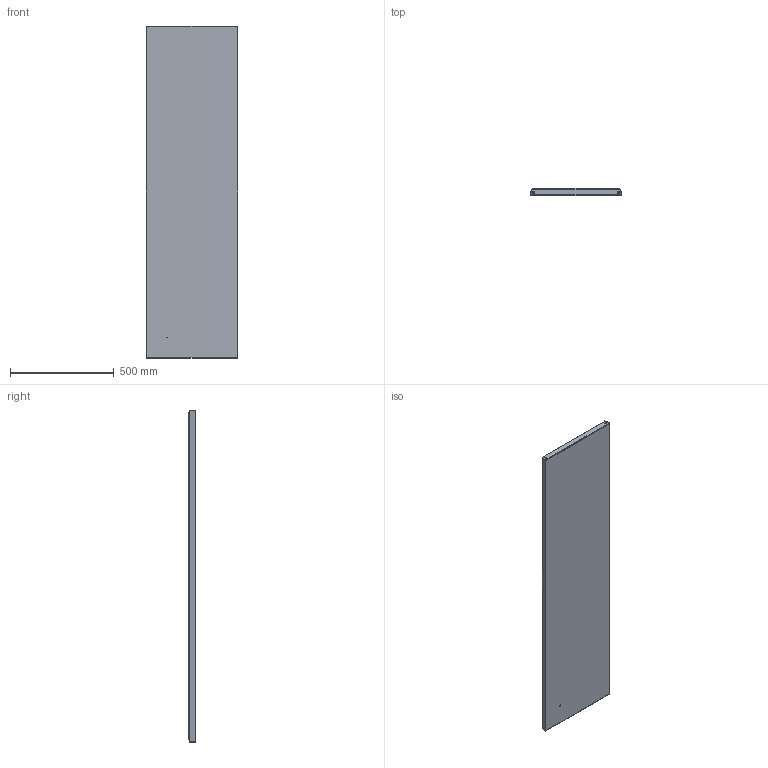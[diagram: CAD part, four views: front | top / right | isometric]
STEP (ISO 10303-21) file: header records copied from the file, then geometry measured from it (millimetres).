
FILE_DESCRIPTION((''),'2;1');
FILE_NAME('7-09017-05-3_ASM','2014-05-22T',('r-maciej'),('BAS'),'PRO/ENGINEER BY PARAMETRIC TECHNOLOGY CORPORATION, 2014000','PRO/ENGINEER BY PARAMETRIC TECHNOLOGY CORPORATION, 2014000','');
FILE_SCHEMA(('CONFIG_CONTROL_DESIGN'));
Length unit declared in the file: millimetre
Products named in the file (6): 7-09017-05-3; TRZPIEN_M8X15; 7-09017-05-3__ASM; USZCZELKA_BDP_16; NITONAKRETKA-M6-PRZELOT; 7-09017-05-3_ASM
Assembly tree (8 placements, depth 3):
  7-09017-05-3_ASM
    7-09017-05-3__ASM
      7-09017-05-3
      TRZPIEN_M8X15
    USZCZELKA_BDP_16
    NITONAKRETKA-M6-PRZELOT  x4
Bounding box: 440.8 x 35 x 1600 mm (x, y, z)
Volume: 1962337.4 mm3; surface area: 1909082.3 mm2
Topology: 7 solids, 7 shells, 210 faces, 470 edges, 286 vertices
Faces by surface type: plane 102, cylinder 74, cone 18, torus 12, bspline 4
Entity records: 4653 total; most frequent: CARTESIAN_POINT 903, DIRECTION 798, ORIENTED_EDGE 712, EDGE_CURVE 356, AXIS2_PLACEMENT_3D 285, VECTOR 228, LINE 228, VERTEX_POINT 214
